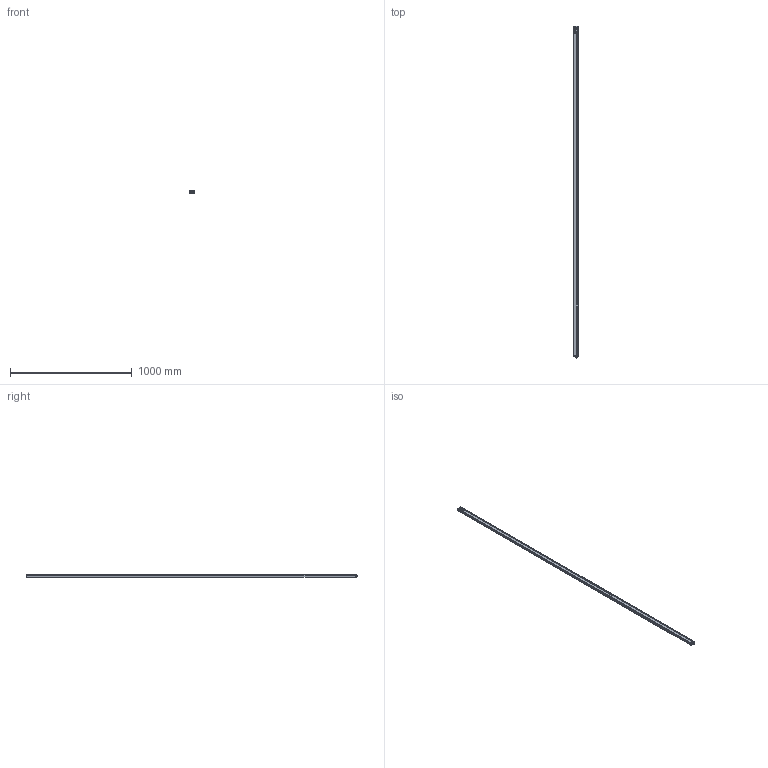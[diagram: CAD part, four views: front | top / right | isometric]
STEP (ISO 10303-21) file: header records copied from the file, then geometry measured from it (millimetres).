
FILE_DESCRIPTION(/* description */ (''),/* implementation_level */ '2;1');
FILE_NAME(/* name */ 'C:\Users\andre\SynologyDrive\Optoscan\Libreria Componenti\00 - Barriere\Polaris sorgente\Barriera Polaris RX\Polaris_2700_RX.stp',/* time_stamp */ '2021-06-04T12:12:35+02:00',/* author */ ('andre'),/* organization */ (''),/* preprocessor_version */ 'ST-DEVELOPER v18',/* originating_system */ 'Autodesk Inventor 2020',/* authorisation */ '');
FILE_SCHEMA (('AUTOMOTIVE_DESIGN { 1 0 10303 214 3 1 1 }'));
Length unit declared in the file: millimetre
Products named in the file (1): Polaris_2700_RX
Bounding box: 40.5 x 2721.3 x 20.75 mm (x, y, z)
Volume: 534239.2 mm3; surface area: 711157.6 mm2
Topology: 1 solids, 1 shells, 684 faces, 1882 edges, 1205 vertices
Faces by surface type: plane 315, cylinder 195, bspline 94, torus 62, sphere 10, cone 8
Full cylindrical faces by diameter (mm): 1 x8, 2.5 x4, 3 x4, 3.5 x4, 5.5 x4, 8 x1, 10.5 x2, 11.75 x9, 15.7 x1, 17.5 x1
Entity records: 27899 total; most frequent: CARTESIAN_POINT 10154, ORIENTED_EDGE 3738, DIRECTION 3331, EDGE_CURVE 1869, VERTEX_POINT 1205, AXIS2_PLACEMENT_3D 1155, LINE 1021, VECTOR 1021
